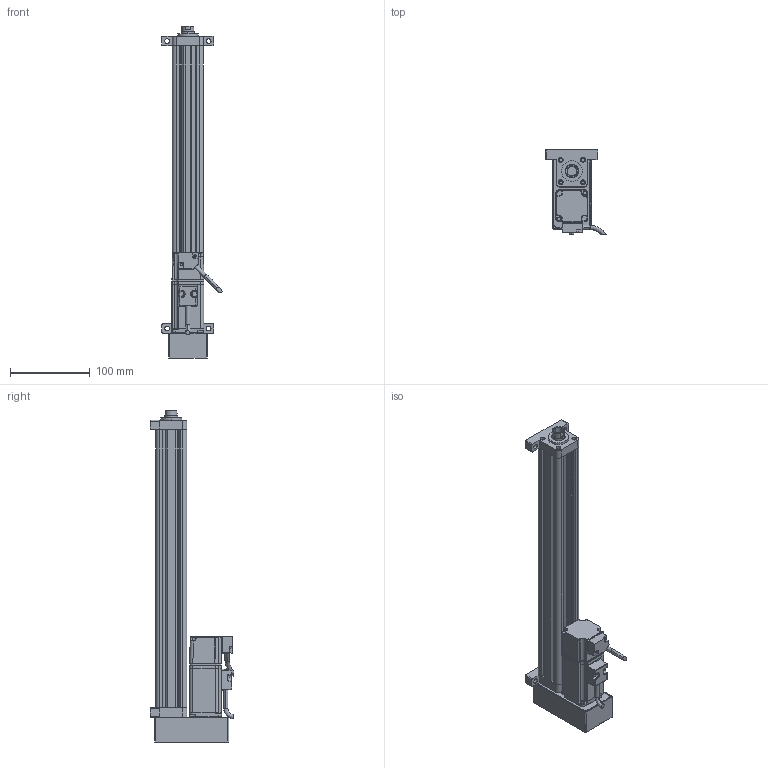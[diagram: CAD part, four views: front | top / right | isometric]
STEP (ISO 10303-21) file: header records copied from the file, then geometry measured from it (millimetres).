
FILE_DESCRIPTION (( 'STEP AP214' ), '1' );
FILE_NAME ('039-S300-D02-B-M2-C2-2.STEP', '2021-02-25T08:49:47', ( '' ), ( '' ), 'SwSTEP 2.0', 'SolidWorks 2018', '' );
FILE_SCHEMA (( 'AUTOMOTIVE_DESIGN' ));
Length unit declared in the file: millimetre
Products named in the file (8): ECMA-CX0401ES-40框號系列機種-100W低慣量系列; CMC039-HDB; CMC039-LJB; CMC039-DT; 039-S300-D02-B-M2-C2-2; CMC039-XT; CMC039-GT; CMC039-QDB
Assembly tree (7 placements, depth 2):
  039-S300-D02-B-M2-C2-2
    CMC039-GT
    CMC039-LJB
    CMC039-XT
    CMC039-DT
    ECMA-CX0401ES-40框號系列機種-100W低慣量系列
    CMC039-QDB
    CMC039-HDB
Bounding box: 75.34 x 104.89 x 416 mm (x, y, z)
Volume: 544594.1 mm3; surface area: 201195 mm2
Topology: 7 solids, 15 shells, 634 faces, 1654 edges, 1031 vertices
Faces by surface type: cylinder 260, plane 253, bspline 84, cone 37
Entity records: 25486 total; most frequent: CARTESIAN_POINT 10811, ORIENTED_EDGE 3242, DIRECTION 2571, EDGE_CURVE 1621, VERTEX_POINT 1031, AXIS2_PLACEMENT_3D 878, VECTOR 815, LINE 815
